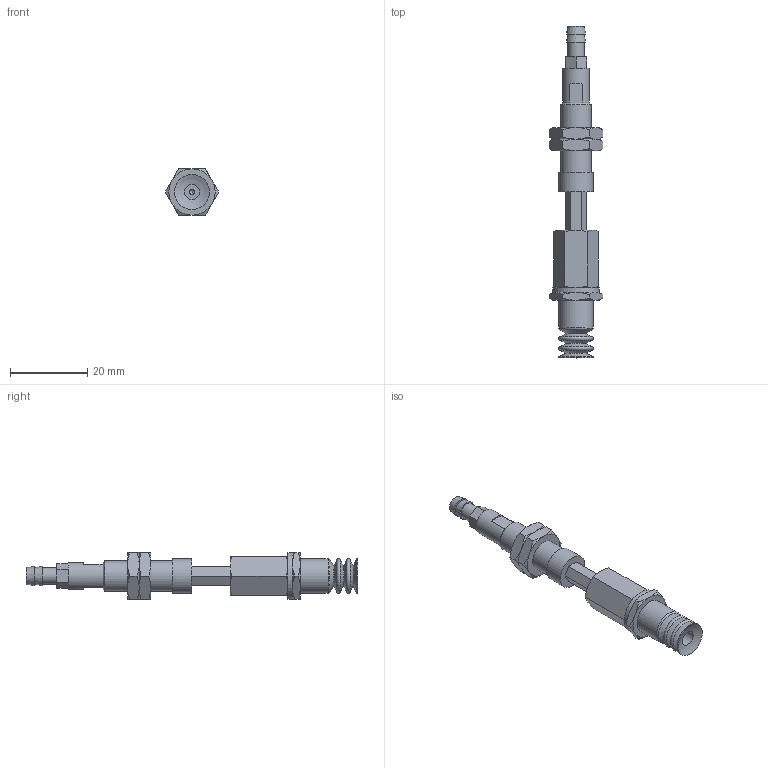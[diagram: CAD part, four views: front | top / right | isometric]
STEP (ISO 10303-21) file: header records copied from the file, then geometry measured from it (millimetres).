
FILE_DESCRIPTION(('STEP AP203'),'1');
FILE_NAME('-T.stp','2025-08-27T01:47:47',(' '),(' '),'Spatial InterOp 3D',' ',' ');
FILE_SCHEMA(('CONFIG_CONTROL_DESIGN'));
Length unit declared in the file: millimetre
Products named in the file (8): BNABPCTH-10-10-※-T; ADAPTER; NAPCTH-10-10-MBODY; Adapter_napc-10-T; Nut napc_h-10-10; NAPCTH-10-10-FBODY; BPCG-10-※; T
Assembly tree (8 placements, depth 2):
  BNABPCTH-10-10-※-T
    ADAPTER
    NAPCTH-10-10-MBODY
    Adapter_napc-10-T
    Nut napc_h-10-10  x2
    NAPCTH-10-10-FBODY
    BPCG-10-※
    T
Bounding box: 13.86 x 86.2 x 12 mm (x, y, z)
Volume: 4637.3 mm3; surface area: 5285.1 mm2
Topology: 8 solids, 8 shells, 170 faces, 351 edges, 208 vertices
Faces by surface type: plane 73, cone 67, cylinder 20, torus 8, sphere 2
Full cylindrical faces by diameter (mm): 1.25 x1, 3 x1, 4 x1, 4.134 x2, 4.3 x1, 5 x6, 7 x1, 7.188 x2, 8 x1, 9 x3, 12 x1
Entity records: 4386 total; most frequent: CARTESIAN_POINT 1129, DIRECTION 596, ORIENTED_EDGE 508, AXIS2_PLACEMENT_3D 258, EDGE_CURVE 254, EDGE_LOOP 214, VERTEX_POINT 179, FACE_OUTER_BOUND 176
